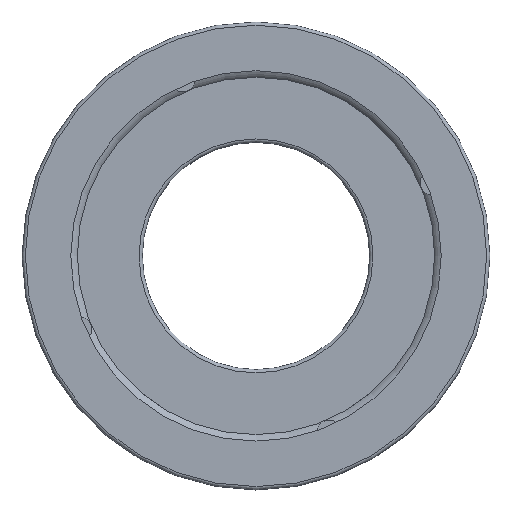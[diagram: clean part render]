
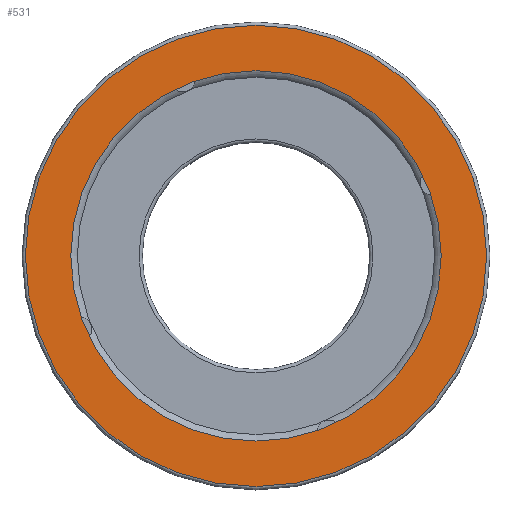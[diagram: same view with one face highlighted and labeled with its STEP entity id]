
A CAD part, top view. The second image highlights one B-rep face of the part: STEP entity #531.
In plain terms, the highlighted planar face has unit normal (0, 0, 1).
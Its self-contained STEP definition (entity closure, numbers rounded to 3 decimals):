
#487=PLANE('',#1299);
#531=ADVANCED_FACE('',(#619,#620),#487,.T.);
#619=FACE_BOUND('',#679,.T.);
#620=FACE_BOUND('',#680,.T.);
#679=EDGE_LOOP('',(#779));
#680=EDGE_LOOP('',(#780));
#779=ORIENTED_EDGE('',*,*,#1113,.T.);
#780=ORIENTED_EDGE('',*,*,#1114,.F.);
#1023=VERTEX_POINT('',#1749);
#1024=VERTEX_POINT('',#1751);
#1113=EDGE_CURVE('',#1023,#1023,#1235,.T.);
#1114=EDGE_CURVE('',#1024,#1024,#1236,.T.);
#1235=CIRCLE('',#1297,35.5);
#1236=CIRCLE('',#1298,28.5);
#1297=AXIS2_PLACEMENT_3D('',#1748,#1434,#1435);
#1298=AXIS2_PLACEMENT_3D('',#1750,#1436,#1437);
#1299=AXIS2_PLACEMENT_3D('',#1752,#1438,#1439);
#1434=DIRECTION('',(0.,0.,1.));
#1435=DIRECTION('',(1.,0.,0.));
#1436=DIRECTION('',(0.,0.,1.));
#1437=DIRECTION('',(1.,0.,0.));
#1438=DIRECTION('',(0.,0.,1.));
#1439=DIRECTION('',(1.,0.,0.));
#1748=CARTESIAN_POINT('',(0.,0.,17.));
#1749=CARTESIAN_POINT('',(35.5,0.,17.));
#1750=CARTESIAN_POINT('',(0.,0.,17.));
#1751=CARTESIAN_POINT('',(28.5,0.,17.));
#1752=CARTESIAN_POINT('',(0.,0.,17.));
